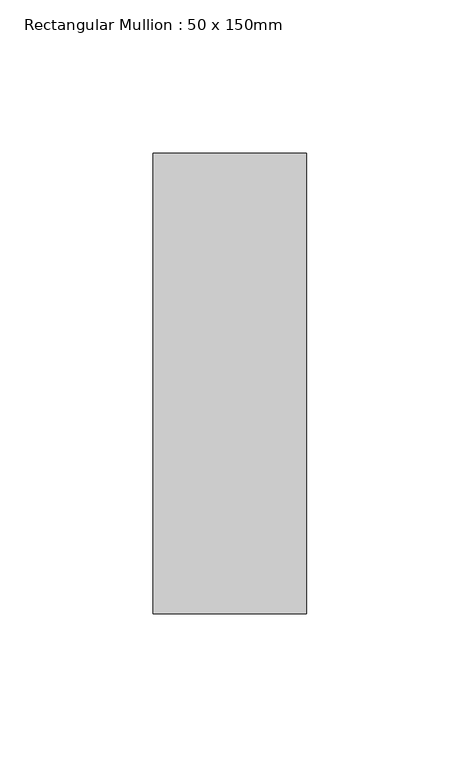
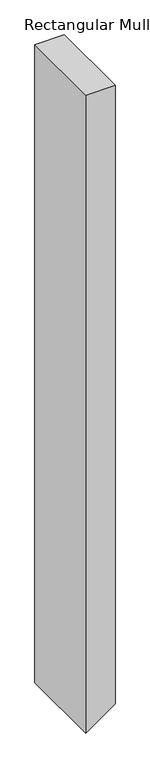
"""IFC4 building model written with IfcOpenShell, lengths in millimetres: member geometry, Rectangular Mullion : 50 x 150mm."""

import ifcopenshell
import ifcopenshell.guid

model = None  # the IFC model being written
_history = None  # IfcOwnerHistory: only IFC2X3 demands one
_inside = {}  # id of a spatial element -> (the spatial element, [elements in it])
_under = {}  # id of a project, library or spatial element -> (it, [spatial elements below it])
_declared = {}  # id of a project -> (the project, [libraries it declares])
_typed = {}  # id of a type object -> (the type object, [elements of that type])
_made_of = {}  # id of a material, layer set ... -> (it, [elements and type objects made of it])


def new_model(schema):
    """Start an empty IFC model of exactly this schema.

    Asked for "IFC4X3", IfcOpenShell would pick the latest addendum, in which some entities
    have other attributes; the version numbers below select the first issue.
    IFC2X3 requires an IfcOwnerHistory on every rooted entity: one is made here for all.
    """
    global model, _history
    if schema == "IFC4X3":
        model = ifcopenshell.file(schema_version=(4, 3, 0, 0))
    else:
        model = ifcopenshell.file(schema=schema)
    _inside.clear()
    _under.clear()
    _declared.clear()
    _typed.clear()
    _made_of.clear()
    _history = None
    if model.schema == "IFC2X3":
        org = make("IfcOrganization", Name="unknown")
        user = make(
            "IfcPersonAndOrganization",
            ThePerson=make("IfcPerson", FamilyName="unknown"),
            TheOrganization=org,
        )
        app = make(
            "IfcApplication",
            ApplicationDeveloper=org,
            Version="unknown",
            ApplicationFullName="unknown",
            ApplicationIdentifier="unknown",
        )
        _history = make(
            "IfcOwnerHistory",
            OwningUser=user,
            OwningApplication=app,
            ChangeAction="ADDED",
            CreationDate=0,
        )
    return model


def make(cls, **values):
    """One entity of the class cls with the attributes given. An attribute that is None is left unset."""
    return model.create_entity(
        cls, **{name: value for name, value in values.items() if value is not None}
    )


def rooted(cls, **values):
    """An entity with a GlobalId (a new one), such as an element, a storey or a relation."""
    return make(cls, GlobalId=ifcopenshell.guid.new(), OwnerHistory=_history, **values)


def si_unit(unit_type, name, prefix=None):
    """IfcSIUnit, for example si_unit("LENGTHUNIT", "METRE", prefix="MILLI")."""
    return make("IfcSIUnit", UnitType=unit_type, Prefix=prefix, Name=name)


def assignment(units):
    """IfcUnitAssignment: the units of a project."""
    return None if units is None else make("IfcUnitAssignment", Units=units)


def point(xyz):
    """IfcCartesianPoint."""
    return None if xyz is None else make("IfcCartesianPoint", Coordinates=xyz)


def direction(xyz):
    """IfcDirection."""
    return None if xyz is None else make("IfcDirection", DirectionRatios=xyz)


def frame(location, z_axis=None, x_axis=None):
    """IfcAxis2Placement3D, a coordinate frame: its origin and axes. An axis left out is left unset."""
    return make(
        "IfcAxis2Placement3D",
        Location=point(location),
        Axis=direction(z_axis),
        RefDirection=direction(x_axis),
    )


def origin():
    """The frame at (0, 0, 0) with its axes left unset."""
    return frame((0.0, 0.0, 0.0))


def place(relative_to, where):
    """IfcLocalPlacement: puts the frame where relative to a parent placement (None: the world)."""
    return make(
        "IfcLocalPlacement", PlacementRelTo=relative_to, RelativePlacement=where
    )


def context(
    kind, dimensions, precision=None, world=None, true_north=None, identifier=None
):
    """IfcGeometricRepresentationContext, for example the 3D "Model" context."""
    return make(
        "IfcGeometricRepresentationContext",
        ContextIdentifier=identifier,
        ContextType=kind,
        CoordinateSpaceDimension=dimensions,
        Precision=precision,
        WorldCoordinateSystem=world,
        TrueNorth=true_north,
    )


def project(units=None, contexts=None):
    """IfcProject with its units and contexts."""
    return rooted(
        "IfcProject",
        Name="project",
        RepresentationContexts=contexts,
        UnitsInContext=assignment(units),
    )


def spatial(cls, under=None, at=None, **own):
    """A site, building, storey or space (cls), placed at a placement, below another one or the project."""
    s = rooted(cls, ObjectPlacement=at, **own)
    if under is not None:
        _under.setdefault(under.id(), (under, []))[1].append(s)
    return s


def polyline(points):
    """IfcPolyline through the points."""
    return make("IfcPolyline", Points=[point(p) for p in points])


def outline(outer, holes=None, kind="AREA"):
    """IfcArbitraryClosedProfileDef: a profile drawn as a closed curve; with holes, ...WithVoids."""
    if holes is None:
        return make("IfcArbitraryClosedProfileDef", ProfileType=kind, OuterCurve=outer)
    return make(
        "IfcArbitraryProfileDefWithVoids",
        ProfileType=kind,
        OuterCurve=outer,
        InnerCurves=holes,
    )


def extrude(swept, where, along, depth):
    """IfcExtrudedAreaSolid: the profile swept, set in the frame where, extruded along a direction by depth."""
    return make(
        "IfcExtrudedAreaSolid",
        SweptArea=swept,
        Position=where,
        ExtrudedDirection=direction(along),
        Depth=depth,
    )


def shape(context_of_items, identifier, shape_type, items):
    """IfcShapeRepresentation: the items that make up one representation, for example the "Body"."""
    return make(
        "IfcShapeRepresentation",
        ContextOfItems=context_of_items,
        RepresentationIdentifier=identifier,
        RepresentationType=shape_type,
        Items=items,
    )


def source(mapping_origin, context_of_items, identifier, shape_type, items):
    """IfcRepresentationMap: a shape defined once, which mapped items show again and again."""
    return make(
        "IfcRepresentationMap",
        MappingOrigin=mapping_origin,
        MappedRepresentation=shape(context_of_items, identifier, shape_type, items),
    )


def transform(
    local_origin,
    x_axis=None,
    y_axis=None,
    z_axis=None,
    scale=None,
    scale2=None,
    scale3=None,
    uniform=True,
):
    """IfcCartesianTransformationOperator3D, or its non-uniform kind. x_axis, y_axis, z_axis: its Axis1, 2, 3."""
    if uniform:
        return make(
            "IfcCartesianTransformationOperator3D",
            Axis1=direction(x_axis),
            Axis2=direction(y_axis),
            LocalOrigin=point(local_origin),
            Scale=scale,
            Axis3=direction(z_axis),
        )
    return make(
        "IfcCartesianTransformationOperator3DnonUniform",
        Axis1=direction(x_axis),
        Axis2=direction(y_axis),
        LocalOrigin=point(local_origin),
        Scale=scale,
        Axis3=direction(z_axis),
        Scale2=scale2,
        Scale3=scale3,
    )


def mapped(mapping_source, mapping_target):
    """IfcMappedItem: shows the shape of a source again, moved by a transform."""
    return make(
        "IfcMappedItem", MappingSource=mapping_source, MappingTarget=mapping_target
    )


def made_of(thing, what):
    """Note that an element or type object is made of a material, layer set ...; save() writes the relation."""
    if what is not None:
        _made_of.setdefault(what.id(), (what, []))[1].append(thing)
    return thing


def element(
    cls,
    number,
    at=None,
    inside=None,
    cuts=None,
    type_object=None,
    material=None,
    context=None,
    identifier="Body",
    shape_type=None,
    held_by="IfcProductDefinitionShape",
    body=None,
    shapes=None,
    **own,
):
    """One element of the class cls, such as IfcWall. Its Tag is "e" and its number.

    at: its placement. inside: the storey or other place that contains it. cuts: it is an
    opening in that element (IfcRelVoidsElement). A single representation is given by context,
    identifier, shape_type and body (its items); several are given by shapes. held_by: the class
    of the entity that holds the representations. save() writes the other relations.
    """
    e = rooted(cls, Tag="e%d" % number, ObjectPlacement=at, **own)
    if body is not None:
        shapes = [shape(context, identifier, shape_type, body)]
    if shapes is not None:
        e.Representation = make(held_by, Representations=shapes)
    if inside is not None:
        _inside.setdefault(inside.id(), (inside, []))[1].append(e)
    if cuts is not None:
        rooted(
            "IfcRelVoidsElement", RelatingBuildingElement=cuts, RelatedOpeningElement=e
        )
    if type_object is not None:
        _typed.setdefault(type_object.id(), (type_object, []))[1].append(e)
    return made_of(e, material)


def aggregate(whole, parts):
    """IfcRelAggregates: a whole, such as a stair, and the parts it consists of."""
    return rooted("IfcRelAggregates", RelatingObject=whole, RelatedObjects=parts)


def save(model, path):
    """Write the relations noted so far, then the file.

    IfcRelAggregates (storeys below a building ...), IfcRelContainedInSpatialStructure (elements
    in a storey), IfcRelDefinesByType, IfcRelAssociatesMaterial and IfcRelDeclares: one each for
    every whole, place, type object, material and project.
    """
    for whole, parts in _under.values():
        aggregate(whole, parts)
    for where, things in _inside.values():
        rooted(
            "IfcRelContainedInSpatialStructure",
            RelatedElements=things,
            RelatingStructure=where,
        )
    for kind, things in _typed.values():
        rooted("IfcRelDefinesByType", RelatedObjects=things, RelatingType=kind)
    for what, things in _made_of.values():
        rooted("IfcRelAssociatesMaterial", RelatedObjects=things, RelatingMaterial=what)
    for by, libraries in _declared.values():
        rooted("IfcRelDeclares", RelatingContext=by, RelatedDefinitions=libraries)
    model.write(path)


def rectangular_mullion_50_x_150mm_ac76d946(model_context):
    return source(origin(), model_context, "Body", "SweptSolid", [
        extrude(outline(polyline([(0.0, 25.0), (0.0, -25.0), (-1150.480027, -25.0), (-1115.3038436, 25.0), (0.0, 25.0)])), frame((0.0, -75.0, 0.0), z_axis=(0.0, 1.0, 0.0), x_axis=(0.0, 0.0, 1.0)), (0.0, 0.0, 1.0), 150.0),
    ])


if __name__ == "__main__":
    model = new_model("IFC4")
    model_context = context("Model", 3, world=origin())
    ifc_project = project(units=[si_unit("LENGTHUNIT", "METRE", prefix="MILLI")], contexts=[model_context])
    site = spatial("IfcSite", under=ifc_project)
    building = spatial("IfcBuilding", under=site)
    placement = place(None, origin())
    rectangular_mullion_50_x_150mm_shape = rectangular_mullion_50_x_150mm_ac76d946(model_context)
    element("IfcMember", 1, ObjectType="Rectangular Mullion : 50 x 150mm", at=placement, inside=building, context=model_context, shape_type="MappedRepresentation", body=[
        mapped(rectangular_mullion_50_x_150mm_shape, transform((0.0, 0.0, 0.0), x_axis=(1.0, 0.0, 0.0), y_axis=(0.0, 1.0, 0.0), z_axis=(0.0, 0.0, 1.0))),
    ])
    save(model, "model.ifc")
